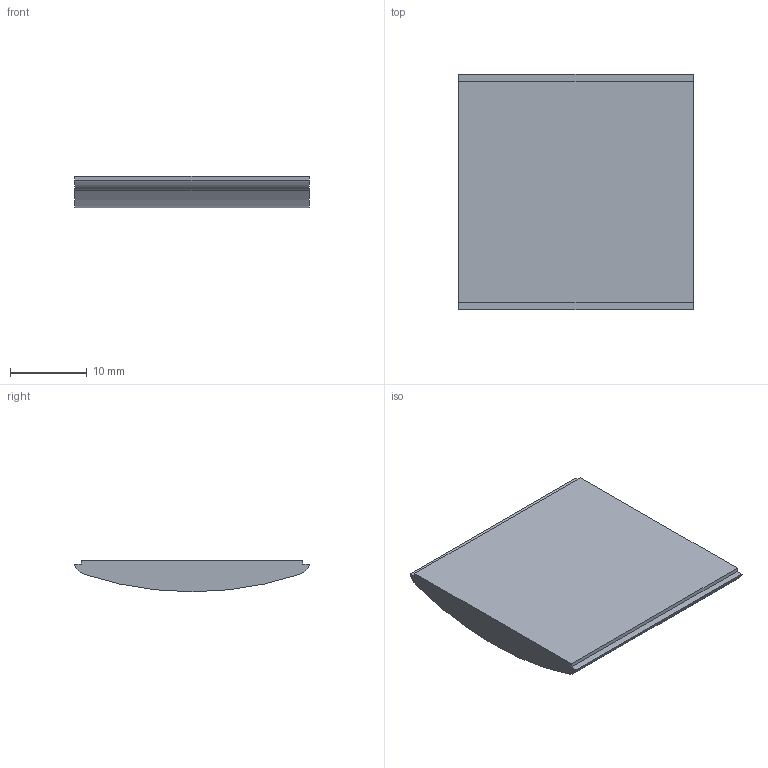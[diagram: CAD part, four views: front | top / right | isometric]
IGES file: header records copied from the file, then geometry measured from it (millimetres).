
Start section:  PTC IGES file: katto.igs
Global section: file name: katto.igs; native system: Pro/ENGINEER by Parametric Technology Corporation; preprocessor: 2004360; author: juha.telimaa; organization: Unknown; date: 060214.163505; units: millimetre
Bounding box: 30.5 x 30.58 x 4.1 mm (x, y, z)
Volume: 2948.3 mm3; surface area: 2143.8 mm2
Topology: 1 solids, 1 shells, 10 faces, 24 edges, 16 vertices
Faces by surface type: bspline 7, revolution 3
